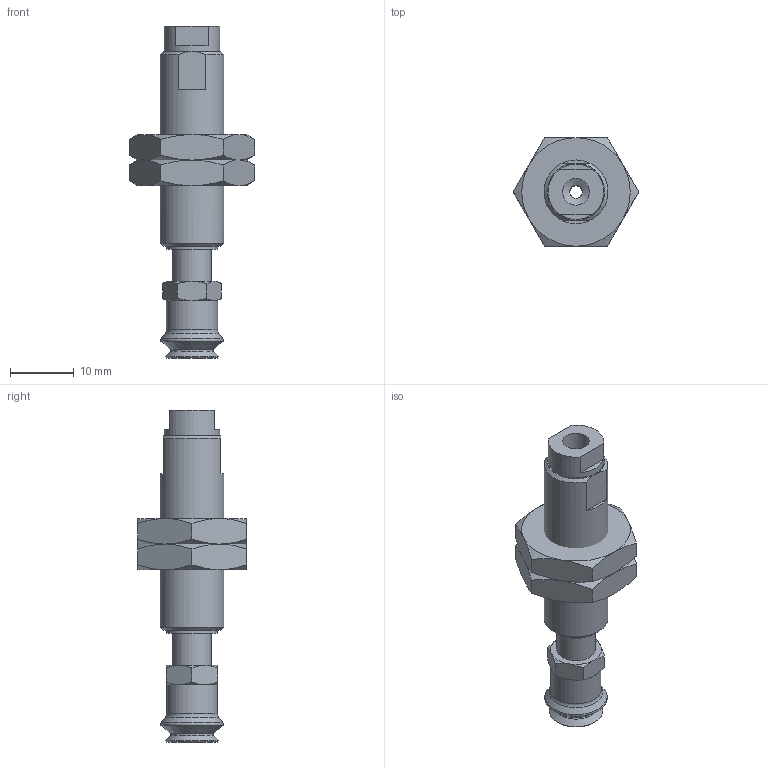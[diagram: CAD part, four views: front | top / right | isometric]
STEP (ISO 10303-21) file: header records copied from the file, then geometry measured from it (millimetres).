
FILE_DESCRIPTION(('STEP AP203'),'1');
FILE_NAME('-LB.stp','2025-04-24T07:20:58',(' '),(' '),'Spatial InterOp 3D',' ',' ');
FILE_SCHEMA(('CONFIG_CONTROL_DESIGN'));
Length unit declared in the file: millimetre
Products named in the file (7): BNABPJTH-8-5-※-LB; __; BODY; NUT; BPJG-8-_; PS-8-J-M- body
Assembly tree (6 placements, depth 2):
  BNABPJTH-8-5-※-LB
    __
    BODY
    NUT
    NUT
    BPJG-8-_
    PS-8-J-M- body
Bounding box: 19.63 x 17 x 52 mm (x, y, z)
Volume: 4508.7 mm3; surface area: 3992.5 mm2
Topology: 6 solids, 6 shells, 115 faces, 240 edges, 142 vertices
Faces by surface type: cone 48, plane 43, cylinder 16, torus 8
Full cylindrical faces by diameter (mm): 2 x2, 4 x2, 4.2 x2, 5 x1, 6 x3, 8 x2, 8.7 x1, 9 x2, 10 x1
Entity records: 3268 total; most frequent: CARTESIAN_POINT 714, DIRECTION 460, ORIENTED_EDGE 400, AXIS2_PLACEMENT_3D 214, EDGE_CURVE 200, EDGE_LOOP 166, FACE_OUTER_BOUND 139, VERTEX_POINT 136
